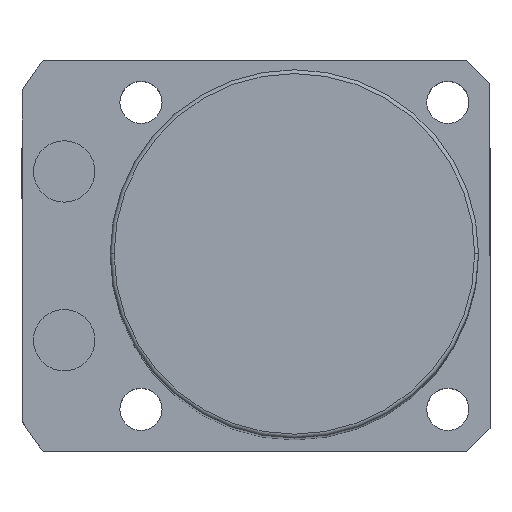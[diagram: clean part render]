
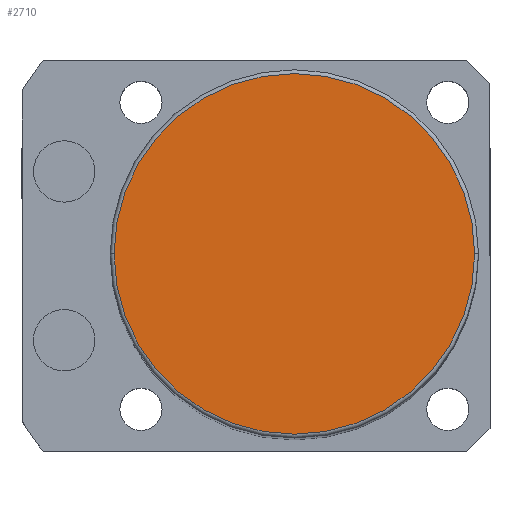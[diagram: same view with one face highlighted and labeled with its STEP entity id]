
A CAD part, top view. The second image highlights one B-rep face of the part: STEP entity #2710.
In plain terms, the highlighted planar face has unit normal (0, 0, 1).
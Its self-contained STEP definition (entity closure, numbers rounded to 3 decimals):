
#391 = CARTESIAN_POINT ( 'NONE',  ( 0., 0., 156. ) ) ;
#440 = PLANE ( 'NONE',  #1724 ) ;
#489 = ORIENTED_EDGE ( 'NONE', *, *, #2561, .T. ) ;
#514 = DIRECTION ( 'NONE',  ( 1., 0., 0. ) ) ;
#1110 = VERTEX_POINT ( 'NONE', #2714 ) ;
#1115 = AXIS2_PLACEMENT_3D ( 'NONE', #2431, #1581, #514 ) ;
#1191 = EDGE_LOOP ( 'NONE', ( #489, #2600 ) ) ;
#1322 = CARTESIAN_POINT ( 'NONE',  ( 0., 0., 156. ) ) ;
#1465 = DIRECTION ( 'NONE',  ( 0., 0., 1. ) ) ;
#1481 = EDGE_CURVE ( 'NONE', #1110, #2189, #2406, .T. ) ;
#1581 = DIRECTION ( 'NONE',  ( 0., 0., 1. ) ) ;
#1724 = AXIS2_PLACEMENT_3D ( 'NONE', #1322, #2375, #2364 ) ;
#1811 = FACE_OUTER_BOUND ( 'NONE', #1191, .T. ) ;
#2096 = CIRCLE ( 'NONE', #2398, 23.5 ) ;
#2155 = CARTESIAN_POINT ( 'NONE',  ( 23.5, 0., 156. ) ) ;
#2189 = VERTEX_POINT ( 'NONE', #2155 ) ;
#2364 = DIRECTION ( 'NONE',  ( 1., 0., 0. ) ) ;
#2375 = DIRECTION ( 'NONE',  ( 0., 0., 1. ) ) ;
#2398 = AXIS2_PLACEMENT_3D ( 'NONE', #391, #1465, #2750 ) ;
#2406 = CIRCLE ( 'NONE', #1115, 23.5 ) ;
#2431 = CARTESIAN_POINT ( 'NONE',  ( 0., 0., 156. ) ) ;
#2561 = EDGE_CURVE ( 'NONE', #2189, #1110, #2096, .T. ) ;
#2600 = ORIENTED_EDGE ( 'NONE', *, *, #1481, .T. ) ;
#2710 = ADVANCED_FACE ( 'NONE', ( #1811 ), #440, .T. ) ;
#2714 = CARTESIAN_POINT ( 'NONE',  ( -23.5, 0., 156. ) ) ;
#2750 = DIRECTION ( 'NONE',  ( 1., 0., 0. ) ) ;
